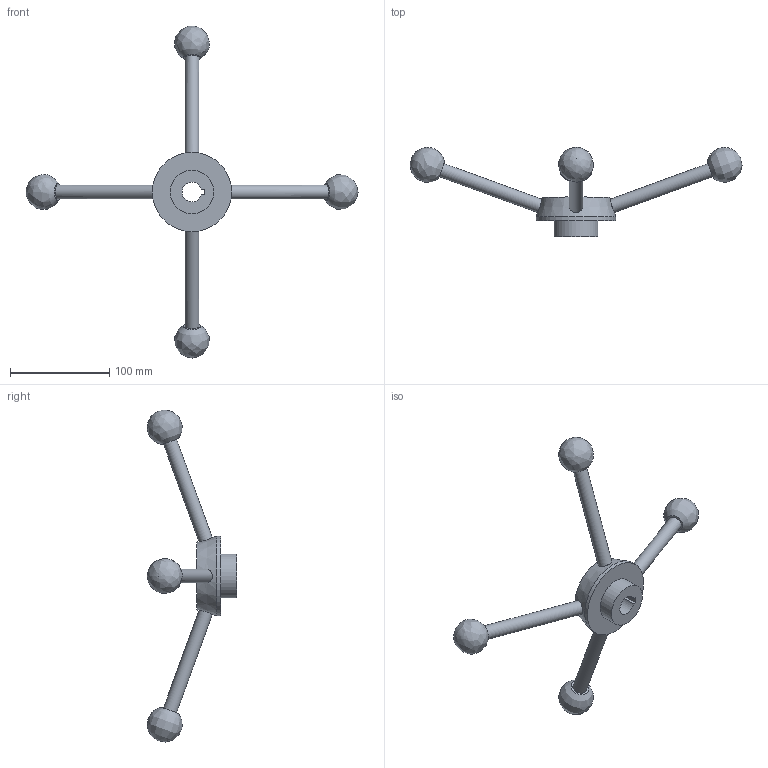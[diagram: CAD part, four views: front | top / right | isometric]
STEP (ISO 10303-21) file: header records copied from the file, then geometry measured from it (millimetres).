
FILE_DESCRIPTION( ( 'STEP AP203' ), '1' );
FILE_NAME( 'C:/Temp/Ganter_Step_05_03_2020/data/2_1/gn_213/gn_213_k/Turret lever GN 213-80-K20.stp', '2020-03-05T11:51:13', ( 'License CC BY-ND 4.0' ), ( 'CADENAS' ), ' ', 'PARTsolutions', ' ' );
FILE_SCHEMA( ( 'CONFIG_CONTROL_DESIGN' ) );
Length unit declared in the file: millimetre
Products named in the file (1): _Turret lever GN 213-80-K20
Bounding box: 334.44 x 89.97 x 334.44 mm (x, y, z)
Volume: 273271.3 mm3; surface area: 51755.7 mm2
Topology: 1 solids, 1 shells, 22 faces, 50 edges, 34 vertices
Faces by surface type: plane 10, cylinder 7, bspline 4, cone 1
Full cylindrical faces by diameter (mm): 14 x4, 44 x1, 80 x1
Entity records: 980 total; most frequent: CARTESIAN_POINT 537, DIRECTION 78, ORIENTED_EDGE 58, EDGE_LOOP 40, AXIS2_PLACEMENT_3D 34, VERTEX_POINT 29, EDGE_CURVE 29, FACE_OUTER_BOUND 28
